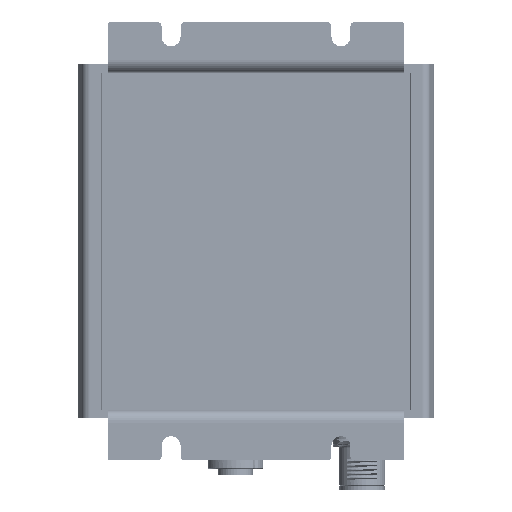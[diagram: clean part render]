
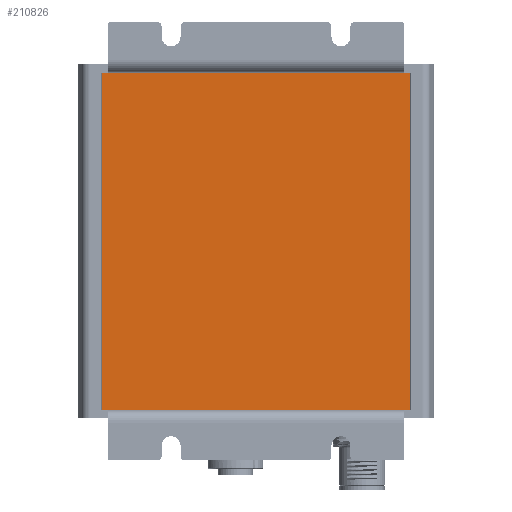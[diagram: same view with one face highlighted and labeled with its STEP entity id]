
A CAD part, front view. The second image highlights one B-rep face of the part: STEP entity #210826.
In plain terms, the highlighted planar face has unit normal (0, -1, 0).
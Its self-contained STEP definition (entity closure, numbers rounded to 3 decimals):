
#580 = EDGE_CURVE ( 'NONE', #179900, #123198, #130814, .T. ) ;
#11340 = VECTOR ( 'NONE', #107723, 1000. ) ;
#36280 = EDGE_CURVE ( 'NONE', #123198, #162162, #195212, .T. ) ;
#37434 = CARTESIAN_POINT ( 'NONE',  ( -18.941, -10.735, 80. ) ) ;
#50295 = PLANE ( 'NONE',  #224080 ) ;
#51687 = VERTEX_POINT ( 'NONE', #180076 ) ;
#87164 = ORIENTED_EDGE ( 'NONE', *, *, #580, .T. ) ;
#90120 = VECTOR ( 'NONE', #130786, 1000. ) ;
#91794 = EDGE_CURVE ( 'NONE', #51687, #179900, #106048, .T. ) ;
#95687 = ORIENTED_EDGE ( 'NONE', *, *, #91794, .T. ) ;
#97408 = DIRECTION ( 'NONE',  ( 0., 0., 1. ) ) ;
#104408 = DIRECTION ( 'NONE',  ( 0., -1., 0. ) ) ;
#106048 = LINE ( 'NONE', #119971, #162321 ) ;
#107723 = DIRECTION ( 'NONE',  ( -1., 0., 0. ) ) ;
#119925 = ORIENTED_EDGE ( 'NONE', *, *, #36280, .T. ) ;
#119971 = CARTESIAN_POINT ( 'NONE',  ( -18.941, -10.735, 0. ) ) ;
#120591 = CARTESIAN_POINT ( 'NONE',  ( -18.941, -10.735, 0. ) ) ;
#123198 = VERTEX_POINT ( 'NONE', #153701 ) ;
#130786 = DIRECTION ( 'NONE',  ( 0., 0., -1. ) ) ;
#130814 = LINE ( 'NONE', #168734, #195993 ) ;
#153701 = CARTESIAN_POINT ( 'NONE',  ( 53.959, -10.735, 80. ) ) ;
#162162 = VERTEX_POINT ( 'NONE', #185807 ) ;
#162321 = VECTOR ( 'NONE', #190178, 1000. ) ;
#166479 = LINE ( 'NONE', #198729, #90120 ) ;
#168734 = CARTESIAN_POINT ( 'NONE',  ( 53.959, -10.735, 0. ) ) ;
#179900 = VERTEX_POINT ( 'NONE', #210634 ) ;
#180076 = CARTESIAN_POINT ( 'NONE',  ( -18.941, -10.735, 0. ) ) ;
#183619 = EDGE_LOOP ( 'NONE', ( #87164, #119925, #222338, #95687 ) ) ;
#185807 = CARTESIAN_POINT ( 'NONE',  ( -18.941, -10.735, 80. ) ) ;
#190178 = DIRECTION ( 'NONE',  ( 1., 0., 0. ) ) ;
#190789 = DIRECTION ( 'NONE',  ( 0., 0., -1. ) ) ;
#193039 = FACE_OUTER_BOUND ( 'NONE', #183619, .T. ) ;
#195212 = LINE ( 'NONE', #37434, #11340 ) ;
#195993 = VECTOR ( 'NONE', #97408, 1000. ) ;
#198729 = CARTESIAN_POINT ( 'NONE',  ( -18.941, -10.735, 0. ) ) ;
#210634 = CARTESIAN_POINT ( 'NONE',  ( 53.959, -10.735, 0. ) ) ;
#210826 = ADVANCED_FACE ( 'NONE', ( #193039 ), #50295, .T. ) ;
#219553 = EDGE_CURVE ( 'NONE', #162162, #51687, #166479, .T. ) ;
#222338 = ORIENTED_EDGE ( 'NONE', *, *, #219553, .T. ) ;
#224080 = AXIS2_PLACEMENT_3D ( 'NONE', #120591, #104408, #190789 ) ;
